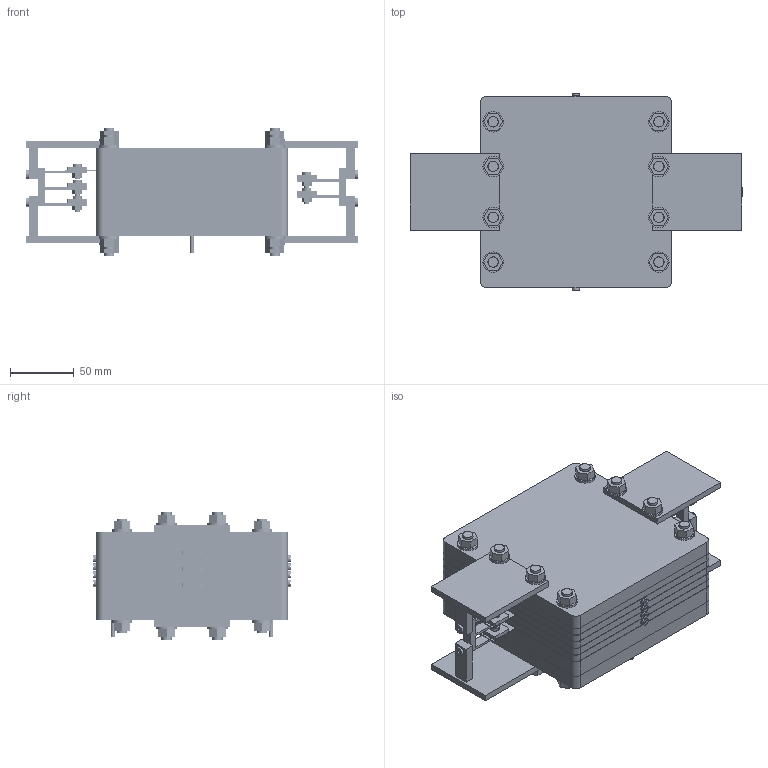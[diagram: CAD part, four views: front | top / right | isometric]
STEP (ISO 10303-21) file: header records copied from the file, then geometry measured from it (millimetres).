
FILE_DESCRIPTION(('FreeCAD Model'),'2;1');
FILE_NAME('Open CASCADE Shape Model','2026-10-30T14:48:59',('Author'),( ''),'Open CASCADE STEP processor 7.8','FreeCAD','Unknown');
FILE_SCHEMA(('AUTOMOTIVE_DESIGN { 1 0 10303 214 1 1 1 1 }'));
Length unit declared in the file: millimetre
Products named in the file (30): 5 片紧凑板框电堆 / Internal parallel manifolds; KP-201 | KP-201 | Front dry endplate with manifold tool access; KP-202 | KP-202 | Front manifold insulator; KS-102-COMP; KP-602 | KP-602 | Cathode precision-film carrier; KP-102 | KP-102 | Cathode electrode; KF-101 | KF-101 | Internal-manifold flow frame KF-101; KS-101-COMP; KH-901 | KH-901 | M4x0.7 nominal cross-drill plug; KH-902 | KH-902 | Cross-drill plug washer; KP-601 | KP-601 | Anode precision-film carrier; KP-101 | KP-101 | Anode electrode; KP-203 | KP-203 | Rear manifold insulator; KP-204 | KP-204 | Rear dry endplate; KB-801 | KB-801 | Front PEEK comb support bracket; KB-802 | KB-802 | Rear PEEK comb support bracket; KB-C5 | KB-C5 | Cathode negative-X copper comb busbar, 5 layers; KB-A5 | KB-A5 | Anode positive-X copper comb busbar, 5 layers; KP-301 | KP-301 | Electrode tab clamp jaw; STD-M4-S10 | STD-M4-S10 | STD-M4-S10; STD-M4-NUT | STD-M4-NUT | STD-M4-NUT; STD-M4-S12 | STD-M4-S12 | STD-M4-S12; STD-M8-ROD-5-PLATE | STD-M8-ROD-5-PLATE | STD-M8-ROD-5-PLATE; STD-M8-WASHER | STD-M8-WASHER | STD-M8-WASHER; STD-M8-NUT | STD-M8-NUT | STD-M8-NUT; STD-M8-ROD-5-SUPPORT | STD-M8-ROD-5-SUPPORT | STD-M8-ROD-5-SUPPORT; STD-LOCATOR-5 | STD-LOCATOR-5 | STD-LOCATOR-5; KP-501 | KP-501 | M6x1 bulkhead connector nut; KP-502 | KP-502 | Tube compression ferrule; KP-503 | KP-503 | Electrolyte tube stub
Assembly tree (135 placements, depth 2):
  5 片紧凑板框电堆 / Internal parallel manifolds
    KP-201 | KP-201 | Front dry endplate with manifold tool access
    KP-202 | KP-202 | Front manifold insulator
    KS-102-COMP  x20
    KP-602 | KP-602 | Cathode precision-film carrier  x3
    KP-102 | KP-102 | Cathode electrode  x3
    KF-101 | KF-101 | Internal-manifold flow frame KF-101  x4
    KS-101-COMP  x8
    KH-901 | KH-901 | M4x0.7 nominal cross-drill plug  x8
    KH-902 | KH-902 | Cross-drill plug washer  x8
    KP-601 | KP-601 | Anode precision-film carrier  x2
    KP-101 | KP-101 | Anode electrode  x2
    KP-203 | KP-203 | Rear manifold insulator
    KP-204 | KP-204 | Rear dry endplate
    KB-801 | KB-801 | Front PEEK comb support bracket  x2
    KB-802 | KB-802 | Rear PEEK comb support bracket  x2
    KB-C5 | KB-C5 | Cathode negative-X copper comb busbar, 5 layers
    KB-A5 | KB-A5 | Anode positive-X copper comb busbar, 5 layers
    KP-301 | KP-301 | Electrode tab clamp jaw  x5
    STD-M4-S10 | STD-M4-S10 | STD-M4-S10  x5
    STD-M4-NUT | STD-M4-NUT | STD-M4-NUT  x5
    STD-M4-S12 | STD-M4-S12 | STD-M4-S12  x4
    STD-M8-ROD-5-PLATE | STD-M8-ROD-5-PLATE | STD-M8-ROD-5-PLATE  x4
    STD-M8-WASHER | STD-M8-WASHER | STD-M8-WASHER  x16
    STD-M8-NUT | STD-M8-NUT | STD-M8-NUT  x16
    STD-M8-ROD-5-SUPPORT | STD-M8-ROD-5-SUPPORT | STD-M8-ROD-5-SUPPORT  x4
    STD-LOCATOR-5 | STD-LOCATOR-5 | STD-LOCATOR-5  x2
    KP-501 | KP-501 | M6x1 bulkhead connector nut  x2
    KP-502 | KP-502 | Tube compression ferrule  x2
    KP-503 | KP-503 | Electrolyte tube stub  x2
Bounding box: 260.4 x 154.6 x 99.95 mm (x, y, z)
Volume: 1619713 mm3; surface area: 733188.4 mm2
Topology: 135 solids, 135 shells, 1536 faces, 3560 edges, 2344 vertices
Faces by surface type: plane 858, cylinder 594, revolution 52, extrusion 32
Full cylindrical faces by diameter (mm): 1.6 x2, 2.2 x18, 3 x6, 3.1 x2, 3.2 x22, 3.3 x20, 3.4 x4, 4 x9, 4.2 x13, 4.5 x19, 5.5 x16, 6 x12, 7 x9, 8 x30, 8.2 x16, 8.4 x16, 9 x114, 11.8 x20, 12 x2, 16 x16, 16.2 x20
Entity records: 16383 total; most frequent: DIRECTION 2912, CARTESIAN_POINT 2771, ORIENTED_EDGE 2362, EDGE_CURVE 1181, AXIS2_PLACEMENT_3D 1100, VERTEX_POINT 783, FACE_BOUND 744, EDGE_LOOP 744
